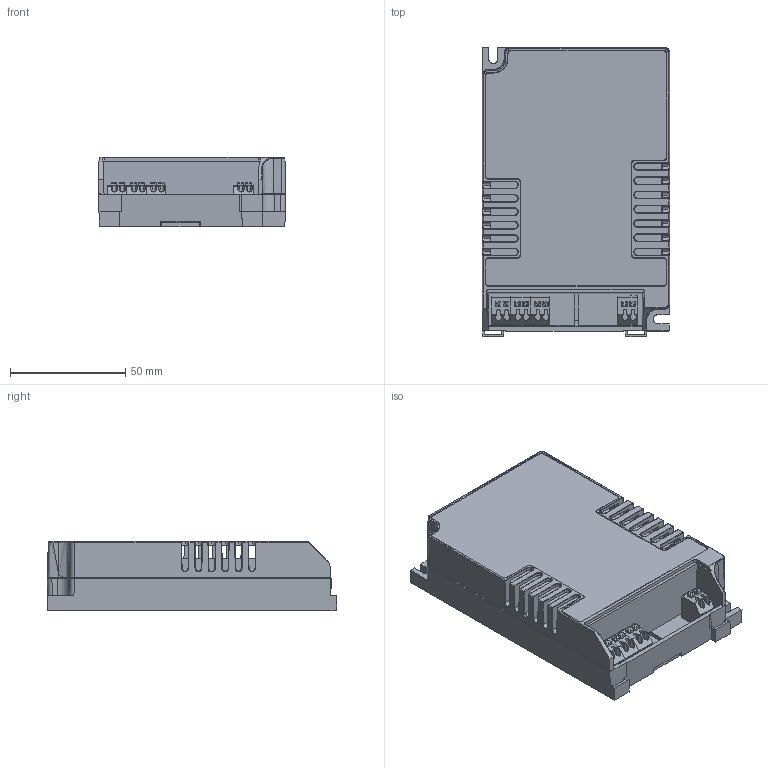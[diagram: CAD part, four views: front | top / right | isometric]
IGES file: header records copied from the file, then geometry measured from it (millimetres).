
Start section: SolidWorks IGES file using analytic representation for surfaces
Global section: file name: C:\Users\vuorinen_kari\Desktop\prj\kotelo\LC1x50-E-CC_3D.IGS; native system: SolidWorks 2014; preprocessor: SolidWorks 2014; author: vuorinen_kari; date: 141118.152655; units: millimetre
Bounding box: 81.04 x 125.32 x 30 mm (x, y, z)
Surface area: 65499.3 mm2 (no closed solid volume)
Topology: 0 solids, 0 shells, 543 faces, 5721 edges, 5721 vertices
Faces by surface type: bspline 302, revolution 241
